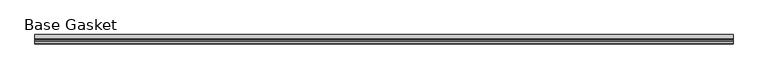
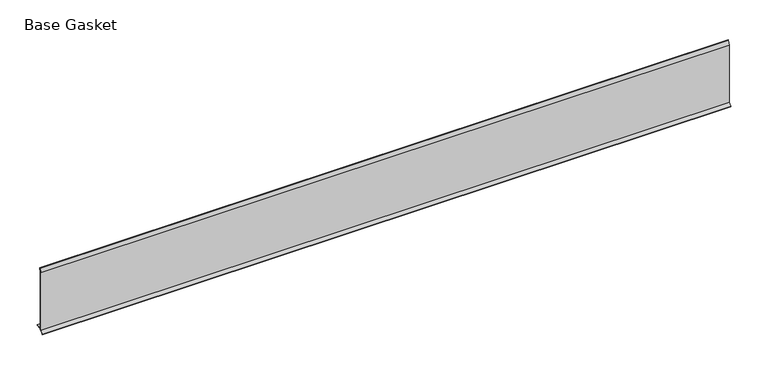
"""IFC4 building model written with IfcOpenShell, lengths in millimetres: furniture geometry, Gasket-Teknion-FHGB-AI_Healthcare-R2021 : Base Gasket."""

from ifc_helpers import new_model, si_unit, frame, origin, place, context, project, spatial, polyline, outline, extrude, source, transform, mapped, element, save


def base_gasket_59fc2744(model_context):
    return source(origin(), model_context, "Body", "SweptSolid", [
        extrude(outline(polyline([(-3.7283812, 98.4568417), (-1.1891543, 104.587663), (-0.6755308, 105.2002997), (-0.6755308, 104.4162708), (-2.2043812, 98.4568417), (-2.2043812, 96.8693477), (-1.4106313, 96.8693477), (-1.4106313, 71.4693447), (-2.2043812, 71.4693447), (-2.2043812, 7.9398773), (6.2405171, 7.9398773), (6.2405171, 6.3818476), (-2.1334222, 6.3818476), (-2.2043812, 4.3498477), (-6.8281054, 0.3520979), (-7.8482342, 0.0), (-7.4222115, 0.6560174), (-3.7283812, 4.3498477), (-3.7283812, 98.4568417)])), frame((-1527.8982117, 0.0, 0.0), z_axis=(1.0, 0.0, 0.0), x_axis=(0.0, 1.0, 0.0)), (0.0, 0.0, 1.0), 1066.8),
    ])


if __name__ == "__main__":
    model = new_model("IFC4")
    model_context = context("Model", 3, world=origin())
    ifc_project = project(units=[si_unit("LENGTHUNIT", "METRE", prefix="MILLI")], contexts=[model_context])
    site = spatial("IfcSite", under=ifc_project)
    building = spatial("IfcBuilding", under=site)
    placement = place(None, origin())
    base_gasket_shape = base_gasket_59fc2744(model_context)
    element("IfcFurniture", 1, ObjectType="Gasket-Teknion-FHGB-AI_Healthcare-R2021 : Base Gasket", at=placement, inside=building, context=model_context, shape_type="MappedRepresentation", body=[
        mapped(base_gasket_shape, transform((0.0, 0.0, 0.0), x_axis=(1.0, 0.0, 0.0), y_axis=(0.0, 1.0, 0.0), z_axis=(0.0, 0.0, 1.0))),
    ])
    save(model, "model.ifc")
